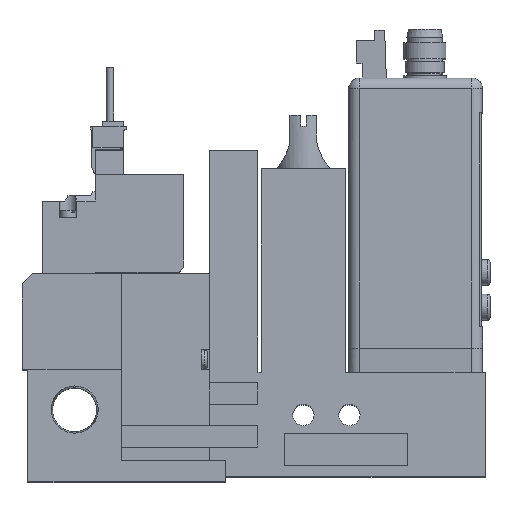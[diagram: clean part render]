
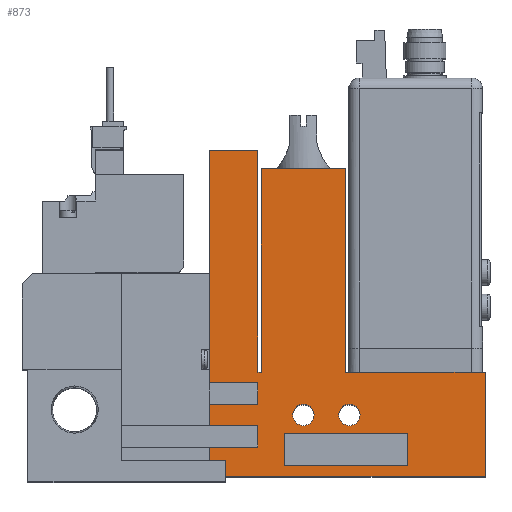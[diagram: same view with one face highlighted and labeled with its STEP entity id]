
A CAD part, top view. The second image highlights one B-rep face of the part: STEP entity #873.
In plain terms, the highlighted planar face has unit normal (0, 0, 1).
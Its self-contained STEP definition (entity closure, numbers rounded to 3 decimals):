
#873=ADVANCED_FACE('',(#3210,#3211,#3212,#3213),#3214,.T.);
#3210=FACE_OUTER_BOUND('',#7844,.T.);
#3211=FACE_BOUND('',#7845,.T.);
#3212=FACE_BOUND('',#7846,.T.);
#3213=FACE_BOUND('',#7847,.T.);
#3214=PLANE('',#7848);
#7844=EDGE_LOOP('',(#14307,#14308,#14309,#14310,#14311,#14312,#14313,#14314,#14315,#14316,#14317,#14318,#14319,#14320,#14321,#14322,#14323,#14324));
#7845=EDGE_LOOP('',(#14325,#14326,#14327,#14328));
#7846=EDGE_LOOP('',(#14329));
#7847=EDGE_LOOP('',(#14330));
#7848=AXIS2_PLACEMENT_3D('',#14331,#14332,#14333);
#14307=ORIENTED_EDGE('',*,*,#28588,.T.);
#14308=ORIENTED_EDGE('',*,*,#28656,.T.);
#14309=ORIENTED_EDGE('',*,*,#28655,.T.);
#14310=ORIENTED_EDGE('',*,*,#28560,.T.);
#14311=ORIENTED_EDGE('',*,*,#28603,.T.);
#14312=ORIENTED_EDGE('',*,*,#28657,.T.);
#14313=ORIENTED_EDGE('',*,*,#28628,.T.);
#14314=ORIENTED_EDGE('',*,*,#28642,.T.);
#14315=ORIENTED_EDGE('',*,*,#28599,.T.);
#14316=ORIENTED_EDGE('',*,*,#28649,.T.);
#14317=ORIENTED_EDGE('',*,*,#28538,.T.);
#14318=ORIENTED_EDGE('',*,*,#28545,.T.);
#14319=ORIENTED_EDGE('',*,*,#28528,.T.);
#14320=ORIENTED_EDGE('',*,*,#28525,.T.);
#14321=ORIENTED_EDGE('',*,*,#28532,.T.);
#14322=ORIENTED_EDGE('',*,*,#28595,.T.);
#14323=ORIENTED_EDGE('',*,*,#28658,.T.);
#14324=ORIENTED_EDGE('',*,*,#28645,.T.);
#14325=ORIENTED_EDGE('',*,*,#28567,.T.);
#14326=ORIENTED_EDGE('',*,*,#28570,.T.);
#14327=ORIENTED_EDGE('',*,*,#28575,.T.);
#14328=ORIENTED_EDGE('',*,*,#28573,.T.);
#14329=ORIENTED_EDGE('',*,*,#28622,.T.);
#14330=ORIENTED_EDGE('',*,*,#28620,.T.);
#14331=CARTESIAN_POINT('',(0.0,0.0,10.0));
#14332=DIRECTION('',(0.0,0.0,1.0));
#14333=DIRECTION('',(1.0,0.0,0.0));
#28525=EDGE_CURVE('',#34539,#34537,#34540,.T.);
#28528=EDGE_CURVE('',#34544,#34539,#34545,.T.);
#28532=EDGE_CURVE('',#34537,#34549,#34551,.T.);
#28538=EDGE_CURVE('',#34563,#34561,#34564,.T.);
#28545=EDGE_CURVE('',#34561,#34544,#34573,.T.);
#28560=EDGE_CURVE('',#34591,#34597,#34599,.T.);
#28567=EDGE_CURVE('',#34604,#34609,#34611,.T.);
#28570=EDGE_CURVE('',#34609,#34614,#34616,.T.);
#28573=EDGE_CURVE('',#34617,#34604,#34621,.T.);
#28575=EDGE_CURVE('',#34614,#34617,#34623,.T.);
#28588=EDGE_CURVE('',#34644,#34642,#34645,.T.);
#28595=EDGE_CURVE('',#34549,#34654,#34656,.T.);
#28599=EDGE_CURVE('',#34658,#34662,#34664,.T.);
#28603=EDGE_CURVE('',#34597,#34667,#34669,.T.);
#28620=EDGE_CURVE('',#34694,#34694,#34695,.T.);
#28622=EDGE_CURVE('',#34698,#34698,#34699,.T.);
#28628=EDGE_CURVE('',#34705,#34707,#34709,.T.);
#28642=EDGE_CURVE('',#34707,#34658,#34729,.T.);
#28645=EDGE_CURVE('',#34733,#34644,#34734,.T.);
#28649=EDGE_CURVE('',#34662,#34563,#34739,.T.);
#28655=EDGE_CURVE('',#34744,#34591,#34748,.T.);
#28656=EDGE_CURVE('',#34642,#34744,#34749,.T.);
#28657=EDGE_CURVE('',#34667,#34705,#34750,.T.);
#28658=EDGE_CURVE('',#34654,#34733,#34751,.T.);
#34537=VERTEX_POINT('',#43534);
#34539=VERTEX_POINT('',#43537);
#34540=LINE('',#43538,#43539);
#34544=VERTEX_POINT('',#43545);
#34545=LINE('',#43546,#43547);
#34549=VERTEX_POINT('',#43553);
#34551=LINE('',#43556,#43557);
#34561=VERTEX_POINT('',#43568);
#34563=VERTEX_POINT('',#43571);
#34564=LINE('',#43572,#43573);
#34573=LINE('',#43588,#43589);
#34591=VERTEX_POINT('',#43614);
#34597=VERTEX_POINT('',#43623);
#34599=LINE('',#43626,#43627);
#34604=VERTEX_POINT('',#43635);
#34609=VERTEX_POINT('',#43642);
#34611=LINE('',#43645,#43646);
#34614=VERTEX_POINT('',#43650);
#34616=LINE('',#43653,#43654);
#34617=VERTEX_POINT('',#43655);
#34621=LINE('',#43661,#43662);
#34623=LINE('',#43665,#43666);
#34642=VERTEX_POINT('',#43694);
#34644=VERTEX_POINT('',#43697);
#34645=LINE('',#43698,#43699);
#34654=VERTEX_POINT('',#43713);
#34656=LINE('',#43716,#43717);
#34658=VERTEX_POINT('',#43719);
#34662=VERTEX_POINT('',#43725);
#34664=LINE('',#43728,#43729);
#34667=VERTEX_POINT('',#43734);
#34669=LINE('',#43737,#43738);
#34694=VERTEX_POINT('',#43775);
#34695=CIRCLE('',#43776,2.0);
#34698=VERTEX_POINT('',#43779);
#34699=CIRCLE('',#43780,2.0);
#34705=VERTEX_POINT('',#43789);
#34707=VERTEX_POINT('',#43792);
#34709=LINE('',#43795,#43796);
#34729=LINE('',#43829,#43830);
#34733=VERTEX_POINT('',#43836);
#34734=LINE('',#43837,#43838);
#34739=LINE('',#43845,#43846);
#34744=VERTEX_POINT('',#43854);
#34748=LINE('',#43860,#43861);
#34749=LINE('',#43862,#43863);
#34750=LINE('',#43864,#43865);
#34751=LINE('',#43866,#43867);
#43534=CARTESIAN_POINT('',(44.75,57.5,10.0));
#43537=CARTESIAN_POINT('',(60.45,57.5,10.0));
#43538=CARTESIAN_POINT('',(60.45,57.5,10.0));
#43539=VECTOR('',#55618,1.0);
#43545=CARTESIAN_POINT('',(60.45,19.5,10.0));
#43546=CARTESIAN_POINT('',(60.45,19.5,10.0));
#43547=VECTOR('',#55621,1.0);
#43553=CARTESIAN_POINT('',(44.75,19.5,10.0));
#43556=CARTESIAN_POINT('',(44.75,57.5,10.0));
#43557=VECTOR('',#55625,1.0);
#43568=CARTESIAN_POINT('',(86.6,19.5,10.0));
#43571=CARTESIAN_POINT('',(86.6,0.0,10.0));
#43572=CARTESIAN_POINT('',(86.6,0.0,10.0));
#43573=VECTOR('',#55637,1.0);
#43588=CARTESIAN_POINT('',(86.6,19.5,10.0));
#43589=VECTOR('',#55644,1.0);
#43614=CARTESIAN_POINT('',(44.1,13.5,10.0));
#43623=CARTESIAN_POINT('',(35.1,13.5,10.0));
#43626=CARTESIAN_POINT('',(0.0,13.5,10.0));
#43627=VECTOR('',#55665,1.0);
#43635=CARTESIAN_POINT('',(49.1,2.0,10.0));
#43642=CARTESIAN_POINT('',(49.1,8.0,10.0));
#43645=CARTESIAN_POINT('',(49.1,0.0,10.0));
#43646=VECTOR('',#55672,1.0);
#43650=CARTESIAN_POINT('',(72.1,8.0,10.0));
#43653=CARTESIAN_POINT('',(0.0,8.0,10.0));
#43654=VECTOR('',#55675,1.0);
#43655=CARTESIAN_POINT('',(72.1,2.0,10.0));
#43661=CARTESIAN_POINT('',(0.0,2.0,10.0));
#43662=VECTOR('',#55678,1.0);
#43665=CARTESIAN_POINT('',(72.1,0.0,10.0));
#43666=VECTOR('',#55680,1.0);
#43694=CARTESIAN_POINT('',(35.1,17.5,10.0));
#43697=CARTESIAN_POINT('',(35.1,61.0,10.0));
#43698=CARTESIAN_POINT('',(35.1,61.0,10.0));
#43699=VECTOR('',#55694,1.0);
#43713=CARTESIAN_POINT('',(44.1,19.5,10.0));
#43716=CARTESIAN_POINT('',(44.75,19.5,10.0));
#43717=VECTOR('',#55701,1.0);
#43719=CARTESIAN_POINT('',(35.1,5.5,10.0));
#43725=CARTESIAN_POINT('',(35.1,0.0,10.0));
#43728=CARTESIAN_POINT('',(35.1,0.0,10.0));
#43729=VECTOR('',#55705,1.0);
#43734=CARTESIAN_POINT('',(35.1,9.5,10.0));
#43737=CARTESIAN_POINT('',(35.1,0.0,10.0));
#43738=VECTOR('',#55709,1.0);
#43775=CARTESIAN_POINT('',(63.2,11.5,10.0));
#43776=AXIS2_PLACEMENT_3D('',#55734,#55735,#55736);
#43779=CARTESIAN_POINT('',(54.6,11.5,10.0));
#43780=AXIS2_PLACEMENT_3D('',#55740,#55741,#55742);
#43789=CARTESIAN_POINT('',(44.1,9.5,10.0));
#43792=CARTESIAN_POINT('',(44.1,5.5,10.0));
#43795=CARTESIAN_POINT('',(44.1,0.0,10.0));
#43796=VECTOR('',#55748,1.0);
#43829=CARTESIAN_POINT('',(0.0,5.5,10.0));
#43830=VECTOR('',#55762,1.0);
#43836=CARTESIAN_POINT('',(44.1,61.0,10.0));
#43837=CARTESIAN_POINT('',(44.1,61.0,10.0));
#43838=VECTOR('',#55765,1.0);
#43845=CARTESIAN_POINT('',(18.6,0.0,10.0));
#43846=VECTOR('',#55771,1.0);
#43854=CARTESIAN_POINT('',(44.1,17.5,10.0));
#43860=CARTESIAN_POINT('',(44.1,0.0,10.0));
#43861=VECTOR('',#55777,1.0);
#43862=CARTESIAN_POINT('',(0.0,17.5,10.0));
#43863=VECTOR('',#55778,1.0);
#43864=CARTESIAN_POINT('',(0.0,9.5,10.0));
#43865=VECTOR('',#55779,1.0);
#43866=CARTESIAN_POINT('',(44.1,19.5,10.0));
#43867=VECTOR('',#55780,1.0);
#55618=DIRECTION('',(-1.0,0.0,0.0));
#55621=DIRECTION('',(0.0,1.0,0.0));
#55625=DIRECTION('',(0.0,-1.0,0.0));
#55637=DIRECTION('',(0.0,1.0,0.0));
#55644=DIRECTION('',(-1.0,0.0,0.0));
#55665=DIRECTION('',(-1.0,0.0,0.0));
#55672=DIRECTION('',(0.0,1.0,0.0));
#55675=DIRECTION('',(1.0,0.0,0.0));
#55678=DIRECTION('',(-1.0,0.0,0.0));
#55680=DIRECTION('',(0.0,-1.0,0.0));
#55694=DIRECTION('',(0.0,-1.0,0.0));
#55701=DIRECTION('',(-1.0,0.0,0.0));
#55705=DIRECTION('',(0.0,-1.0,0.0));
#55709=DIRECTION('',(0.0,-1.0,0.0));
#55734=CARTESIAN_POINT('',(61.2,11.5,10.0));
#55735=DIRECTION('',(0.0,0.0,-1.0));
#55736=DIRECTION('',(1.0,0.0,0.0));
#55740=CARTESIAN_POINT('',(52.6,11.5,10.0));
#55741=DIRECTION('',(0.0,0.0,-1.0));
#55742=DIRECTION('',(1.0,0.0,0.0));
#55748=DIRECTION('',(0.0,-1.0,0.0));
#55762=DIRECTION('',(-1.0,0.0,0.0));
#55765=DIRECTION('',(-1.0,0.0,0.0));
#55771=DIRECTION('',(1.0,0.0,0.0));
#55777=DIRECTION('',(0.0,-1.0,0.0));
#55778=DIRECTION('',(1.0,0.0,0.0));
#55779=DIRECTION('',(1.0,0.0,0.0));
#55780=DIRECTION('',(0.0,1.0,0.0));
